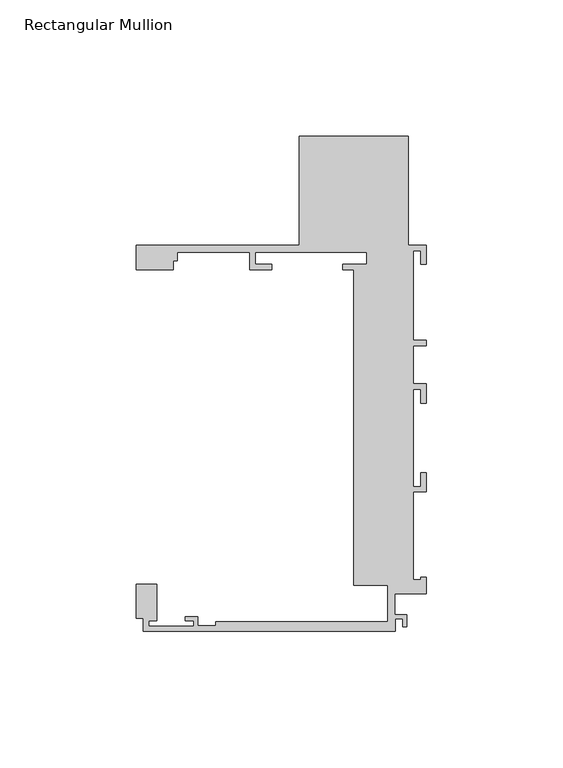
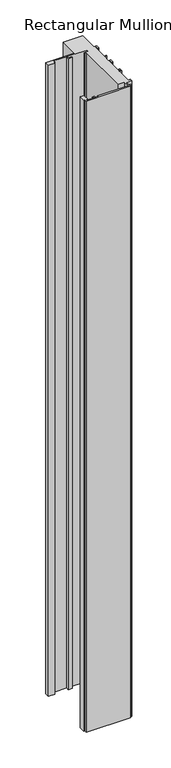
"""IFC4 building model written with IfcOpenShell, lengths in millimetres: member geometry, Rectangular Mullion : Danpal_K12_Middle-Mullion_B2."""

import ifcopenshell
import ifcopenshell.guid

model = None  # the IFC model being written
_history = None  # IfcOwnerHistory: only IFC2X3 demands one
_inside = {}  # id of a spatial element -> (the spatial element, [elements in it])
_under = {}  # id of a project, library or spatial element -> (it, [spatial elements below it])
_declared = {}  # id of a project -> (the project, [libraries it declares])
_typed = {}  # id of a type object -> (the type object, [elements of that type])
_made_of = {}  # id of a material, layer set ... -> (it, [elements and type objects made of it])


def new_model(schema):
    """Start an empty IFC model of exactly this schema.

    Asked for "IFC4X3", IfcOpenShell would pick the latest addendum, in which some entities
    have other attributes; the version numbers below select the first issue.
    IFC2X3 requires an IfcOwnerHistory on every rooted entity: one is made here for all.
    """
    global model, _history
    if schema == "IFC4X3":
        model = ifcopenshell.file(schema_version=(4, 3, 0, 0))
    else:
        model = ifcopenshell.file(schema=schema)
    _inside.clear()
    _under.clear()
    _declared.clear()
    _typed.clear()
    _made_of.clear()
    _history = None
    if model.schema == "IFC2X3":
        org = make("IfcOrganization", Name="unknown")
        user = make(
            "IfcPersonAndOrganization",
            ThePerson=make("IfcPerson", FamilyName="unknown"),
            TheOrganization=org,
        )
        app = make(
            "IfcApplication",
            ApplicationDeveloper=org,
            Version="unknown",
            ApplicationFullName="unknown",
            ApplicationIdentifier="unknown",
        )
        _history = make(
            "IfcOwnerHistory",
            OwningUser=user,
            OwningApplication=app,
            ChangeAction="ADDED",
            CreationDate=0,
        )
    return model


def make(cls, **values):
    """One entity of the class cls with the attributes given. An attribute that is None is left unset."""
    return model.create_entity(
        cls, **{name: value for name, value in values.items() if value is not None}
    )


def rooted(cls, **values):
    """An entity with a GlobalId (a new one), such as an element, a storey or a relation."""
    return make(cls, GlobalId=ifcopenshell.guid.new(), OwnerHistory=_history, **values)


def si_unit(unit_type, name, prefix=None):
    """IfcSIUnit, for example si_unit("LENGTHUNIT", "METRE", prefix="MILLI")."""
    return make("IfcSIUnit", UnitType=unit_type, Prefix=prefix, Name=name)


def assignment(units):
    """IfcUnitAssignment: the units of a project."""
    return None if units is None else make("IfcUnitAssignment", Units=units)


def point(xyz):
    """IfcCartesianPoint."""
    return None if xyz is None else make("IfcCartesianPoint", Coordinates=xyz)


def direction(xyz):
    """IfcDirection."""
    return None if xyz is None else make("IfcDirection", DirectionRatios=xyz)


def frame(location, z_axis=None, x_axis=None):
    """IfcAxis2Placement3D, a coordinate frame: its origin and axes. An axis left out is left unset."""
    return make(
        "IfcAxis2Placement3D",
        Location=point(location),
        Axis=direction(z_axis),
        RefDirection=direction(x_axis),
    )


def origin():
    """The frame at (0, 0, 0) with its axes left unset."""
    return frame((0.0, 0.0, 0.0))


def place(relative_to, where):
    """IfcLocalPlacement: puts the frame where relative to a parent placement (None: the world)."""
    return make(
        "IfcLocalPlacement", PlacementRelTo=relative_to, RelativePlacement=where
    )


def context(
    kind, dimensions, precision=None, world=None, true_north=None, identifier=None
):
    """IfcGeometricRepresentationContext, for example the 3D "Model" context."""
    return make(
        "IfcGeometricRepresentationContext",
        ContextIdentifier=identifier,
        ContextType=kind,
        CoordinateSpaceDimension=dimensions,
        Precision=precision,
        WorldCoordinateSystem=world,
        TrueNorth=true_north,
    )


def project(units=None, contexts=None):
    """IfcProject with its units and contexts."""
    return rooted(
        "IfcProject",
        Name="project",
        RepresentationContexts=contexts,
        UnitsInContext=assignment(units),
    )


def spatial(cls, under=None, at=None, **own):
    """A site, building, storey or space (cls), placed at a placement, below another one or the project."""
    s = rooted(cls, ObjectPlacement=at, **own)
    if under is not None:
        _under.setdefault(under.id(), (under, []))[1].append(s)
    return s


def polyline(points):
    """IfcPolyline through the points."""
    return make("IfcPolyline", Points=[point(p) for p in points])


def outline(outer, holes=None, kind="AREA"):
    """IfcArbitraryClosedProfileDef: a profile drawn as a closed curve; with holes, ...WithVoids."""
    if holes is None:
        return make("IfcArbitraryClosedProfileDef", ProfileType=kind, OuterCurve=outer)
    return make(
        "IfcArbitraryProfileDefWithVoids",
        ProfileType=kind,
        OuterCurve=outer,
        InnerCurves=holes,
    )


def extrude(swept, where, along, depth):
    """IfcExtrudedAreaSolid: the profile swept, set in the frame where, extruded along a direction by depth."""
    return make(
        "IfcExtrudedAreaSolid",
        SweptArea=swept,
        Position=where,
        ExtrudedDirection=direction(along),
        Depth=depth,
    )


def shape(context_of_items, identifier, shape_type, items):
    """IfcShapeRepresentation: the items that make up one representation, for example the "Body"."""
    return make(
        "IfcShapeRepresentation",
        ContextOfItems=context_of_items,
        RepresentationIdentifier=identifier,
        RepresentationType=shape_type,
        Items=items,
    )


def source(mapping_origin, context_of_items, identifier, shape_type, items):
    """IfcRepresentationMap: a shape defined once, which mapped items show again and again."""
    return make(
        "IfcRepresentationMap",
        MappingOrigin=mapping_origin,
        MappedRepresentation=shape(context_of_items, identifier, shape_type, items),
    )


def transform(
    local_origin,
    x_axis=None,
    y_axis=None,
    z_axis=None,
    scale=None,
    scale2=None,
    scale3=None,
    uniform=True,
):
    """IfcCartesianTransformationOperator3D, or its non-uniform kind. x_axis, y_axis, z_axis: its Axis1, 2, 3."""
    if uniform:
        return make(
            "IfcCartesianTransformationOperator3D",
            Axis1=direction(x_axis),
            Axis2=direction(y_axis),
            LocalOrigin=point(local_origin),
            Scale=scale,
            Axis3=direction(z_axis),
        )
    return make(
        "IfcCartesianTransformationOperator3DnonUniform",
        Axis1=direction(x_axis),
        Axis2=direction(y_axis),
        LocalOrigin=point(local_origin),
        Scale=scale,
        Axis3=direction(z_axis),
        Scale2=scale2,
        Scale3=scale3,
    )


def mapped(mapping_source, mapping_target):
    """IfcMappedItem: shows the shape of a source again, moved by a transform."""
    return make(
        "IfcMappedItem", MappingSource=mapping_source, MappingTarget=mapping_target
    )


def made_of(thing, what):
    """Note that an element or type object is made of a material, layer set ...; save() writes the relation."""
    if what is not None:
        _made_of.setdefault(what.id(), (what, []))[1].append(thing)
    return thing


def element(
    cls,
    number,
    at=None,
    inside=None,
    cuts=None,
    type_object=None,
    material=None,
    context=None,
    identifier="Body",
    shape_type=None,
    held_by="IfcProductDefinitionShape",
    body=None,
    shapes=None,
    **own,
):
    """One element of the class cls, such as IfcWall. Its Tag is "e" and its number.

    at: its placement. inside: the storey or other place that contains it. cuts: it is an
    opening in that element (IfcRelVoidsElement). A single representation is given by context,
    identifier, shape_type and body (its items); several are given by shapes. held_by: the class
    of the entity that holds the representations. save() writes the other relations.
    """
    e = rooted(cls, Tag="e%d" % number, ObjectPlacement=at, **own)
    if body is not None:
        shapes = [shape(context, identifier, shape_type, body)]
    if shapes is not None:
        e.Representation = make(held_by, Representations=shapes)
    if inside is not None:
        _inside.setdefault(inside.id(), (inside, []))[1].append(e)
    if cuts is not None:
        rooted(
            "IfcRelVoidsElement", RelatingBuildingElement=cuts, RelatedOpeningElement=e
        )
    if type_object is not None:
        _typed.setdefault(type_object.id(), (type_object, []))[1].append(e)
    return made_of(e, material)


def aggregate(whole, parts):
    """IfcRelAggregates: a whole, such as a stair, and the parts it consists of."""
    return rooted("IfcRelAggregates", RelatingObject=whole, RelatedObjects=parts)


def save(model, path):
    """Write the relations noted so far, then the file.

    IfcRelAggregates (storeys below a building ...), IfcRelContainedInSpatialStructure (elements
    in a storey), IfcRelDefinesByType, IfcRelAssociatesMaterial and IfcRelDeclares: one each for
    every whole, place, type object, material and project.
    """
    for whole, parts in _under.values():
        aggregate(whole, parts)
    for where, things in _inside.values():
        rooted(
            "IfcRelContainedInSpatialStructure",
            RelatedElements=things,
            RelatingStructure=where,
        )
    for kind, things in _typed.values():
        rooted("IfcRelDefinesByType", RelatedObjects=things, RelatingType=kind)
    for what, things in _made_of.values():
        rooted("IfcRelAssociatesMaterial", RelatedObjects=things, RelatingMaterial=what)
    for by, libraries in _declared.values():
        rooted("IfcRelDeclares", RelatingContext=by, RelatedDefinitions=libraries)
    model.write(path)


def rectangular_mullion_270d84ba(model_context):
    return source(origin(), model_context, "Body", "SweptSolid", [
        extrude(outline(polyline([(24.173135, 117.8676658), (20.1940961, 117.8676658), (20.1940961, 119.8676658), (28.9590961, 119.8676658), (28.9590961, 124.2676658), (-11.9409313, 124.2676658), (-11.9409313, 119.8676658), (-5.9409313, 119.8676658), (-5.9409313, 117.8676658), (-13.9409313, 117.8676658), (-13.9409313, 124.2676658), (-40.4959313, 124.2676658), (-40.4959313, 121.0676175), (-42.0287205, 121.0676175), (-42.0287205, 117.6986749), (-55.6176464, 117.6986749), (-55.6176464, 126.7676657), (4.1940962, 126.7676657), (4.1940962, 166.7676657), (44.1940962, 166.7676657), (44.1940962, 126.7676657), (50.7940962, 126.7676657), (50.7940962, 119.7676657), (48.7940962, 119.7676657), (48.7940962, 124.7676657), (45.9940962, 124.7676657), (45.9940962, 91.8676485), (50.7940962, 91.8676485), (50.7940962, 89.8676485), (45.9940962, 89.8676485), (45.9940962, 75.867683), (50.7940962, 75.867683), (50.7940962, 68.8676657), (48.7940962, 68.8676657), (48.7940962, 73.8676657), (45.9940962, 73.8676657), (45.9940962, 38.2443486), (48.7940962, 38.2443486), (48.7940962, 43.2443486), (50.7940962, 43.2443486), (50.7940962, 36.2443486), (45.9940962, 36.2443486), (45.9940962, 3.9448486), (48.7940962, 3.9448486), (48.7940962, 4.9448486), (50.7940962, 4.9448486), (50.7940962, -1.0551514), (39.1885087, -1.0551514), (39.1885087, -8.8006425), (43.6422367, -8.8006425), (43.6422367, -13.3051514), (42.1422367, -13.3051514), (42.1422367, -10.3006425), (39.3921425, -10.3006425), (39.3921425, -14.8051514), (-53.1059014, -14.8051514), (-53.1059014, -10.065304), (-55.6176464, -10.065304), (-55.6176464, 2.316674), (-48.1059014, 2.316674), (-48.1059014, -11.0051513), (-51.1059014, -11.0051513), (-51.1059014, -13.0051512), (-34.6059015, -13.0051512), (-34.6059015, -11.0051513), (-37.6059015, -11.0051513), (-37.6059015, -9.5051512), (-33.1059015, -9.5051512), (-33.1059015, -12.8051513), (-26.3590216, -12.8051513), (-26.3590216, -11.3051512), (36.6885087, -11.3051512), (36.6885087, 1.9446289), (24.173135, 1.9446289), (24.173135, 117.8676658)])), frame((0.0, 0.0, -1398.4118076), z_axis=(0.0, 0.0, 1.0), x_axis=(1.0, 0.0, 0.0)), (0.0, 0.0, 1.0), 1398.4118076),
    ])


if __name__ == "__main__":
    model = new_model("IFC4")
    model_context = context("Model", 3, world=origin())
    ifc_project = project(units=[si_unit("LENGTHUNIT", "METRE", prefix="MILLI")], contexts=[model_context])
    site = spatial("IfcSite", under=ifc_project)
    building = spatial("IfcBuilding", under=site)
    placement = place(None, origin())
    rectangular_mullion_shape = rectangular_mullion_270d84ba(model_context)
    element("IfcMember", 1, ObjectType="Rectangular Mullion : Danpal_K12_Middle-Mullion_B2", at=placement, inside=building, context=model_context, shape_type="MappedRepresentation", body=[
        mapped(rectangular_mullion_shape, transform((0.0, 0.0, 0.0), x_axis=(1.0, 0.0, 0.0), y_axis=(0.0, 1.0, 0.0), z_axis=(0.0, 0.0, 1.0))),
    ])
    save(model, "model.ifc")
